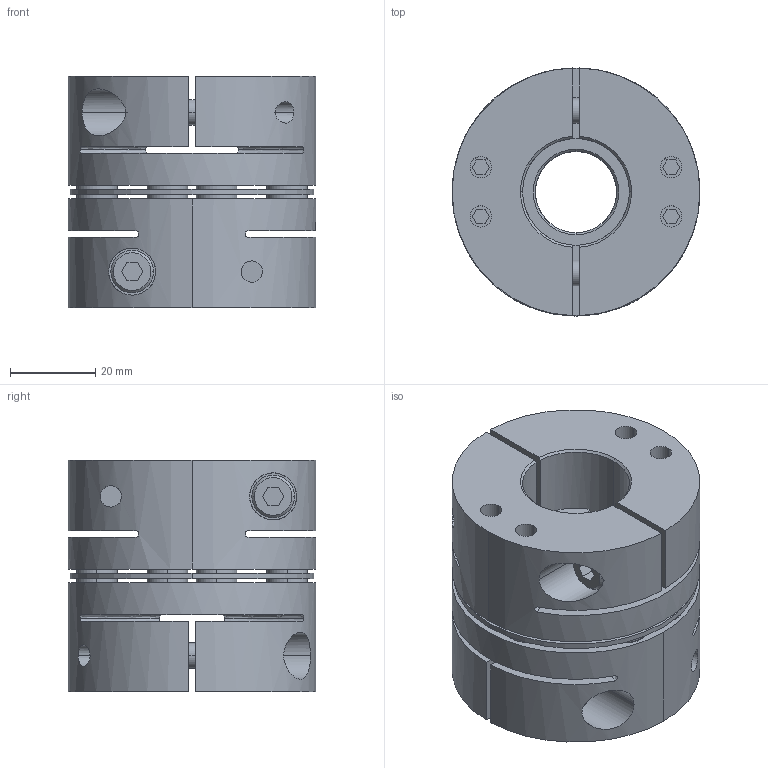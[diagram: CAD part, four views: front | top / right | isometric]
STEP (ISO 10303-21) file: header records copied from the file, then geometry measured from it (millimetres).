
FILE_DESCRIPTION((''),'2;1');
FILE_NAME('TAS-58C-19×25.stp','2022-11-14T22:20:25',(''),(''),'AutoCAD STEP 2000i','AutoCAD 2000i',', , ');
FILE_SCHEMA(('CONFIG_CONTROL_DESIGN'));
Length unit declared in the file: millimetre
Products named in the file (6): TAS-58C-12×22; 忣兜1; TA58C-22; CAP-M6×20; TA58C-12-2; TA58C-12
Assembly tree (7 placements, depth 3):
  TAS-58C-12×22
    忣兜1
    TA58C-22
      CAP-M6×20
    TA58C-12-2
      CAP-M6×20
    TA58C-12
      CAP-M6×20
Bounding box: 58 x 58 x 54.25 mm (x, y, z)
Volume: 102419.3 mm3; surface area: 41459.5 mm2
Topology: 1 solids, 1 shells, 360 faces, 894 edges, 628 vertices
Faces by surface type: plane 160, cylinder 148, cone 36, bspline 16
Entity records: 12805 total; most frequent: CARTESIAN_POINT 3832, DIRECTION 1922, ORIENTED_EDGE 1720, EDGE_CURVE 860, AXIS2_PLACEMENT_3D 732, VERTEX_POINT 564, EDGE_LOOP 464, VECTOR 458
